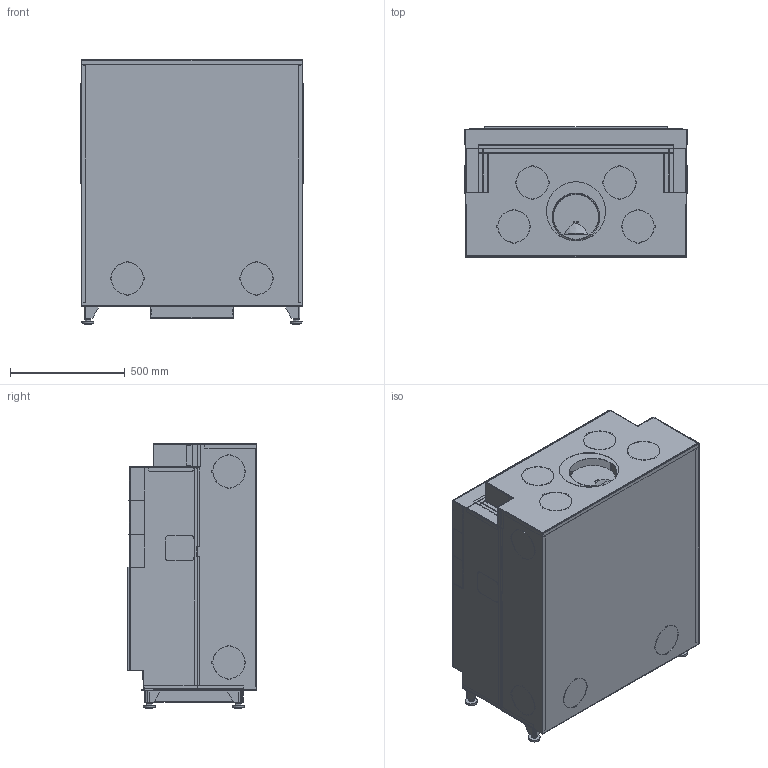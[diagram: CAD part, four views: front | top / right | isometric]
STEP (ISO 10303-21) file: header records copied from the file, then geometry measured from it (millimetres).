
FILE_DESCRIPTION(/* description */ ('','CAx-IF Rec.Pracs.---Representation and Presentation of Product Manufacturing Information (PMI)---3.8---2014-02-18'),/* implementation_level */ '2;1');
FILE_NAME(/* name */ 'C:\ADSK_DM_WS\CAD_3D\03 Geraete\Violino 45x80\Zeichnungen\Violino_45x80_mit_Mantel_Gen1_2015-03261.stp',/* time_stamp */ '2016-03-08T14:29:15+01:00',/* author */ ('cpi'),/* organization */ (''),/* preprocessor_version */ 'ST-DEVELOPER v16.1',/* originating_system */ 'Autodesk Inventor 2016',/* authorisation */ '');
FILE_SCHEMA (('AP242_MANAGED_MODEL_BASED_3D_ENGINEERING_MIM_LF { 1 0 10303 442 1 1 4 }'));
Products named in the file (7): 2015-02692; 2015-02688; 2015-02685; 2015-03260; 2015-02690; 2015-02693; 2015-03261
Assembly tree (6 placements, depth 3):
  2015-03261
    2015-02693
      2015-02692
      2015-02688
      2015-02690
      2015-02685
    2015-03260
Bounding box: 966 x 564.5 x 1148 mm (x, y, z)
Volume: 74942909.4 mm3; surface area: 18877984.2 mm2
Topology: 17 solids, 20 shells, 3893 faces, 10603 edges, 6645 vertices
Faces by surface type: plane 2453, cylinder 1221, bspline 129, cone 86, torus 3, sphere 1
Full cylindrical faces by diameter (mm): 2.6 x8, 4.8 x1, 5.6 x1, 6 x2, 7 x2, 8 x8, 10 x7, 16 x12, 30 x4, 333 x1, 339 x1
Entity records: 128058 total; most frequent: CARTESIAN_POINT 26369, ORIENTED_EDGE 21094, DIRECTION 19969, EDGE_CURVE 10504, LINE 7363, VECTOR 7363, VERTEX_POINT 6617, AXIS2_PLACEMENT_3D 6303
